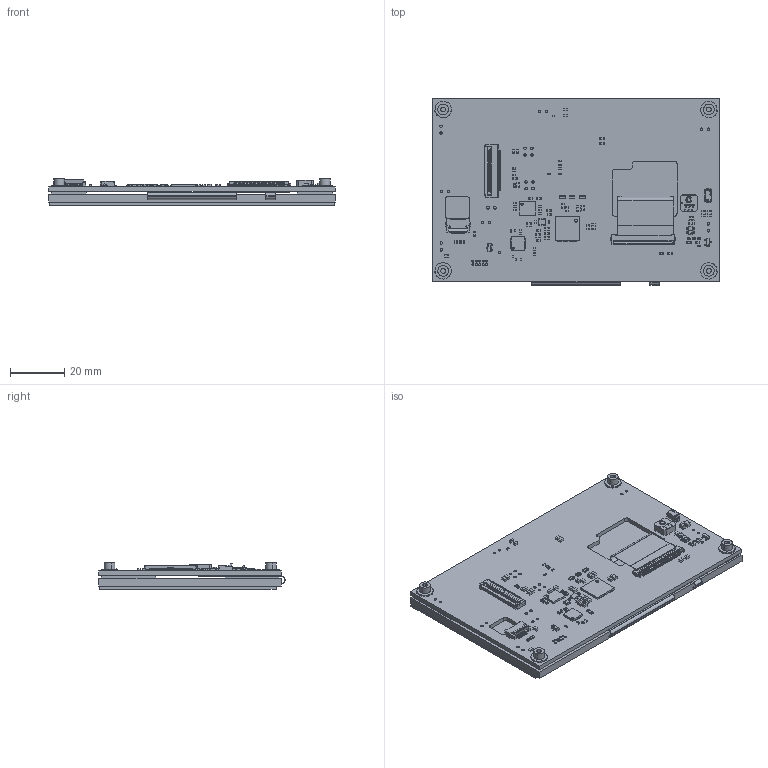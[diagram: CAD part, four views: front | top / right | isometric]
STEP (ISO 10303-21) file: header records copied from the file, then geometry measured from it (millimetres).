
FILE_DESCRIPTION (( 'STEP AP214' ), '1' );
FILE_NAME ('CFA800480E0-043SR.STEP', '2025-12-10T22:55:35', ( '' ), ( '' ), 'SwSTEP 2.0', 'SolidWorks 2021', '' );
FILE_SCHEMA (( 'AUTOMOTIVE_DESIGN' ));
Length unit declared in the file: millimetre
Products named in the file (1): CFA800480E0-043SR
Bounding box: 105.5 x 68.49 x 9.7 mm (x, y, z)
Surface area: 36017.5 mm2 (no closed solid volume)
Topology: 0 solids, 624 shells, 2394 faces, 20334 edges, 18243 vertices
Faces by surface type: plane 1842, cylinder 538, bspline 8, sphere 5, torus 1
Entity records: 219186 total; most frequent: CARTESIAN_POINT 56590, DIRECTION 24357, ORIENTED_EDGE 23425, EDGE_CURVE 20331, VERTEX_POINT 18243, LINE 13185, VECTOR 13185, AXIS2_PLACEMENT_3D 5586
